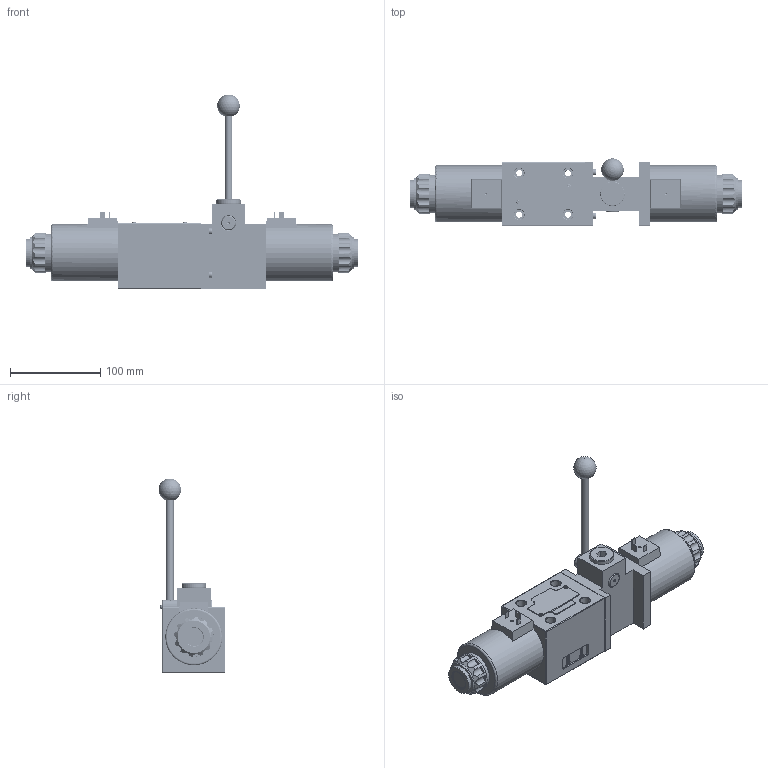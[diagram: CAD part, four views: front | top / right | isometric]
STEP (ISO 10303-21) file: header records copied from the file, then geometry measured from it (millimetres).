
FILE_DESCRIPTION(/* description */ (''),/* implementation_level */ '2;1');
FILE_NAME(/* name */ '4WEMM10-3XJ电磁手动换向阀（三位阀）.prt.stp',/* time_stamp */ '2022-03-30T19:41:12+08:00',/* author */ (''),/* organization */ (''),/* preprocessor_version */ 'ST-DEVELOPER v16.7',/* originating_system */ 'SIEMENS PLM Software NX 12.0',/* authorisation */ '');
FILE_SCHEMA (('AUTOMOTIVE_DESIGN { 1 0 10303 214 3 1 1 1 }'));
Products named in the file (1): 4WEMM10-3XJ电磁手动换向阀（三位阀）
Bounding box: 367.1 x 73.9 x 215.5 mm (x, y, z)
Volume: 909635.7 mm3; surface area: 215390.2 mm2
Topology: 25 solids, 37 shells, 1074 faces, 2716 edges, 1764 vertices
Faces by surface type: plane 595, cylinder 302, bspline 69, cone 66, torus 39, sphere 2, extrusion 1
Full cylindrical faces by diameter (mm): 1.5 x2, 1.8 x4, 1.9 x2, 2.5 x1, 2.55 x36, 3 x2, 3.6 x9, 4 x3, 4.5 x4, 5 x2, 6 x2, 6.6 x4, 6.78 x4, 8 x1, 8.5 x1, 10 x1, 11 x4, 15.7 x5, 16 x4, 16.2 x1, 16.5 x2, 17 x2, 18.8 x2, 19 x1, 19.082 x1, 21 x4, 21.4 x3, 24 x4, 27 x1, 31.5 x6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
Entity records: 116378 total; most frequent: CARTESIAN_POINT 91218, ORIENTED_EDGE 4654, DIRECTION 4373, EDGE_CURVE 2327, VERTEX_POINT 1618, AXIS2_PLACEMENT_3D 1527, VECTOR 1319, LINE 1318
